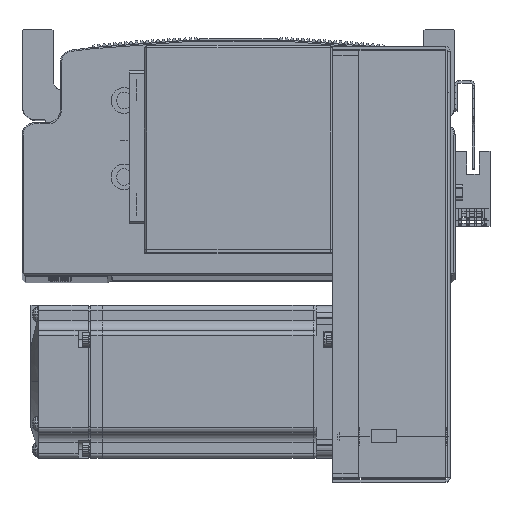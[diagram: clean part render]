
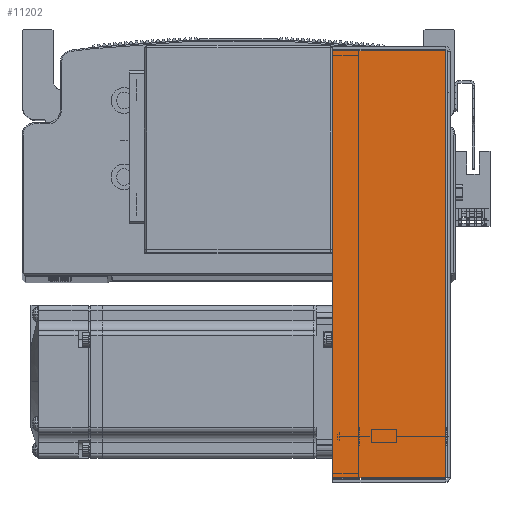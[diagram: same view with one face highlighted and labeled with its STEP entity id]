
A CAD part, top view. The second image highlights one B-rep face of the part: STEP entity #11202.
In plain terms, the highlighted planar face has unit normal (0, 0, 1) as drawn and (0, 0, -1) by its records, which use the part's own axes.
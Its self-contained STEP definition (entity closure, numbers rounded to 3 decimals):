
#3401 = EDGE_CURVE ( 'NONE', #56962, #56720, #11522, .T. ) ;
#3413 = EDGE_CURVE ( 'NONE', #56919, #56785, #11526, .T. ) ;
#3417 = EDGE_CURVE ( 'NONE', #56962, #56919, #11534, .T. ) ;
#3450 = EDGE_CURVE ( 'NONE', #56720, #56785, #11593, .T. ) ;
#11202 = ADVANCED_FACE ( 'NONE', ( #34261 ), #48514, .F. ) ;
#11474 = VECTOR ( 'NONE', #51071, 1000. ) ;
#11481 = VECTOR ( 'NONE', #51066, 1000. ) ;
#11486 = VECTOR ( 'NONE', #51134, 1000. ) ;
#11522 = LINE ( 'NONE', #51079, #11474 ) ;
#11526 = LINE ( 'NONE', #51053, #11481 ) ;
#11534 = LINE ( 'NONE', #51161, #11486 ) ;
#11564 = VECTOR ( 'NONE', #81486, 1000. ) ;
#11593 = LINE ( 'NONE', #81425, #11564 ) ;
#14043 = EDGE_LOOP ( 'NONE', ( #77495, #77471, #77439, #77466 ) ) ;
#34261 = FACE_OUTER_BOUND ( 'NONE', #14043, .T. ) ;
#48421 = CARTESIAN_POINT ( 'NONE',  ( 0., 0., -40.5 ) ) ;
#48488 = DIRECTION ( 'NONE',  ( 0., -1., 0. ) ) ;
#48507 = DIRECTION ( 'NONE',  ( 0., 0., 1. ) ) ;
#48514 = PLANE ( 'NONE',  #50143 ) ;
#50143 = AXIS2_PLACEMENT_3D ( 'NONE', #48421, #48507, #48488 ) ;
#51053 = CARTESIAN_POINT ( 'NONE',  ( 83.793, 0., -40.5 ) ) ;
#51066 = DIRECTION ( 'NONE',  ( 0., 1., 0. ) ) ;
#51071 = DIRECTION ( 'NONE',  ( 0., 1., 0. ) ) ;
#51079 = CARTESIAN_POINT ( 'NONE',  ( -83.793, 0., -40.5 ) ) ;
#51134 = DIRECTION ( 'NONE',  ( 1., 0., 0. ) ) ;
#51161 = CARTESIAN_POINT ( 'NONE',  ( 0., 0.737, -40.5 ) ) ;
#56720 = VERTEX_POINT ( 'NONE', #65445 ) ;
#56785 = VERTEX_POINT ( 'NONE', #65707 ) ;
#56919 = VERTEX_POINT ( 'NONE', #71498 ) ;
#56962 = VERTEX_POINT ( 'NONE', #71701 ) ;
#65445 = CARTESIAN_POINT ( 'NONE',  ( -83.793, 45., -40.5 ) ) ;
#65707 = CARTESIAN_POINT ( 'NONE',  ( 83.793, 45., -40.5 ) ) ;
#71498 = CARTESIAN_POINT ( 'NONE',  ( 83.793, 0.737, -40.5 ) ) ;
#71701 = CARTESIAN_POINT ( 'NONE',  ( -83.793, 0.737, -40.5 ) ) ;
#77439 = ORIENTED_EDGE ( 'NONE', *, *, #3450, .T. ) ;
#77466 = ORIENTED_EDGE ( 'NONE', *, *, #3413, .F. ) ;
#77471 = ORIENTED_EDGE ( 'NONE', *, *, #3401, .T. ) ;
#77495 = ORIENTED_EDGE ( 'NONE', *, *, #3417, .F. ) ;
#81425 = CARTESIAN_POINT ( 'NONE',  ( 84.5, 45., -40.5 ) ) ;
#81486 = DIRECTION ( 'NONE',  ( 1., 0., 0. ) ) ;
